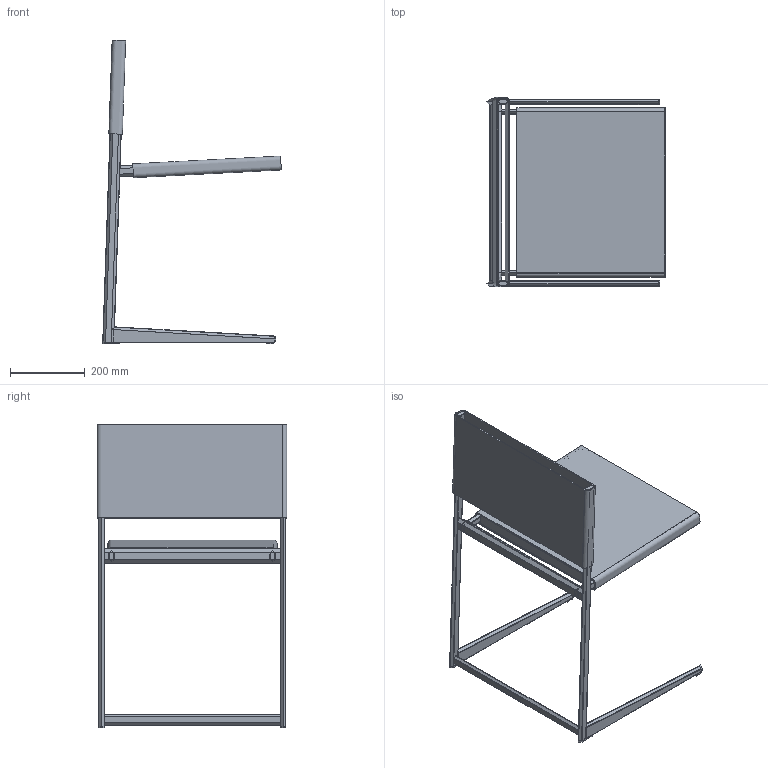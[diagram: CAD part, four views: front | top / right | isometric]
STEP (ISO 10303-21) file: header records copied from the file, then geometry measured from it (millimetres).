
FILE_DESCRIPTION(/* description */ (''),/* implementation_level */ '2;1');
FILE_NAME(/* name */ 'MORITZ',/* time_stamp */ '2017-05-31T10:52:47+02:00',/* author */ (''),/* organization */ (''),/* preprocessor_version */ 'ST-DEVELOPER v10',/* originating_system */ '',/* authorisation */ '');
FILE_SCHEMA (('CONFIG_CONTROL_DESIGN'));
Length unit declared in the file: millimetre
Products named in the file (10): 1; 2; 3; 4; 5; 6; 7; 8; 9; 10
Assembly tree (14 placements, depth 3):
  1
    2
      3
      4  x2
      5  x2
      6  x2
      7  x2
      8  x2
      9
      10
Bounding box: 476.65 x 506 x 810.73 mm (x, y, z)
Volume: 7653827.5 mm3; surface area: 2350634.4 mm2
Topology: 16 solids, 20 shells, 298 faces, 760 edges, 504 vertices
Faces by surface type: bspline 150, plane 148
Entity records: 8912 total; most frequent: CARTESIAN_POINT 4570, ORIENTED_EDGE 1084, EDGE_CURVE 546, VERTEX_POINT 348, B_SPLINE_CURVE_WITH_KNOTS 305, EDGE_LOOP 244, ADVANCED_FACE 219, FACE_OUTER_BOUND 219
